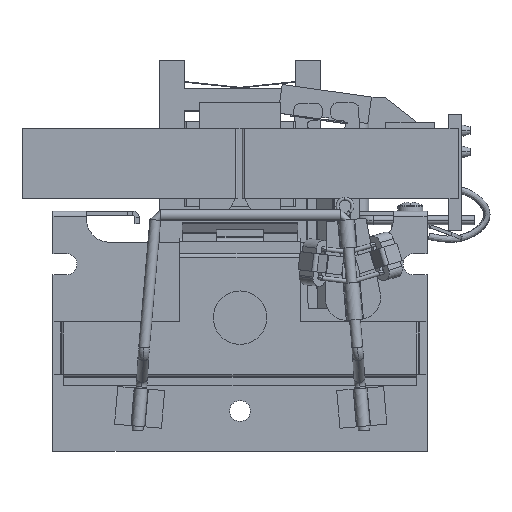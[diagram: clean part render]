
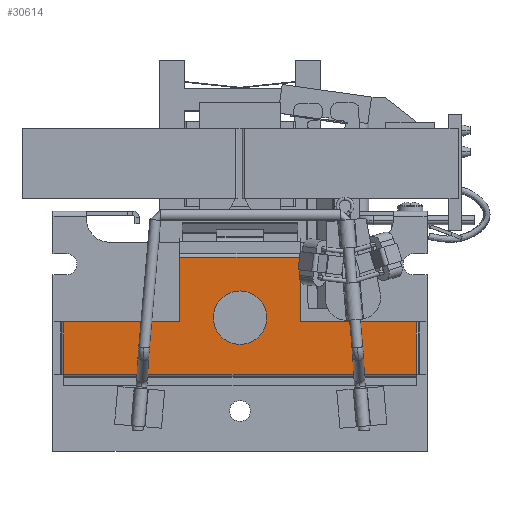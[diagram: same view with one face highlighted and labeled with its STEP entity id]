
A CAD part, top view. The second image highlights one B-rep face of the part: STEP entity #30614.
In plain terms, the highlighted planar face has unit normal (0, 0, 1).
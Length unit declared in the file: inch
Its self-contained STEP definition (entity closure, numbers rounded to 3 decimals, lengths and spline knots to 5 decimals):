
#30495 = VERTEX_POINT ( 'NONE', #35128 ) ;
#30496 = VERTEX_POINT ( 'NONE', #35181 ) ;
#30519 = EDGE_CURVE ( 'NONE', #30495, #30496, #35208, .T. ) ;
#30538 = ORIENTED_EDGE ( 'NONE', *, *, #30621, .T. ) ;
#30541 = EDGE_LOOP ( 'NONE', ( #30585, #30589 ) ) ;
#30542 = VERTEX_POINT ( 'NONE', #35298 ) ;
#30543 = VERTEX_POINT ( 'NONE', #35258 ) ;
#30545 = EDGE_CURVE ( 'NONE', #30548, #30543, #35264, .T. ) ;
#30546 = EDGE_LOOP ( 'NONE', ( #30616, #30615, #30609, #30538, #30618, #30619, #30603, #30607 ) ) ;
#30548 = VERTEX_POINT ( 'NONE', #35294 ) ;
#30552 = EDGE_CURVE ( 'NONE', #30612, #30613, #35333, .T. ) ;
#30560 = VERTEX_POINT ( 'NONE', #35321 ) ;
#30585 = ORIENTED_EDGE ( 'NONE', *, *, #30519, .F. ) ;
#30589 = ORIENTED_EDGE ( 'NONE', *, *, #30593, .F. ) ;
#30593 = EDGE_CURVE ( 'NONE', #30496, #30495, #35373, .T. ) ;
#30602 = EDGE_CURVE ( 'NONE', #30611, #30620, #35476, .T. ) ;
#30603 = ORIENTED_EDGE ( 'NONE', *, *, #30545, .T. ) ;
#30604 = EDGE_CURVE ( 'NONE', #30620, #30548, #35462, .T. ) ;
#30605 = EDGE_CURVE ( 'NONE', #30613, #30543, #35443, .T. ) ;
#30607 = ORIENTED_EDGE ( 'NONE', *, *, #30605, .F. ) ;
#30609 = ORIENTED_EDGE ( 'NONE', *, *, #30622, .T. ) ;
#30611 = VERTEX_POINT ( 'NONE', #35465 ) ;
#30612 = VERTEX_POINT ( 'NONE', #35458 ) ;
#30613 = VERTEX_POINT ( 'NONE', #35466 ) ;
#30614 = ADVANCED_FACE ( 'NONE', ( #35451, #35454 ), #35469, .T. ) ;
#30615 = ORIENTED_EDGE ( 'NONE', *, *, #30617, .T. ) ;
#30616 = ORIENTED_EDGE ( 'NONE', *, *, #30552, .F. ) ;
#30617 = EDGE_CURVE ( 'NONE', #30612, #30542, #35486, .T. ) ;
#30618 = ORIENTED_EDGE ( 'NONE', *, *, #30602, .T. ) ;
#30619 = ORIENTED_EDGE ( 'NONE', *, *, #30604, .T. ) ;
#30620 = VERTEX_POINT ( 'NONE', #35482 ) ;
#30621 = EDGE_CURVE ( 'NONE', #30560, #30611, #35464, .T. ) ;
#30622 = EDGE_CURVE ( 'NONE', #30542, #30560, #35523, .T. ) ;
#35128 = CARTESIAN_POINT ( 'NONE',  ( -0.125, 0., 0.045 ) ) ;
#35181 = CARTESIAN_POINT ( 'NONE',  ( 0.125, 0., 0.045 ) ) ;
#35208 = CIRCLE ( 'NONE', #35246, 0.125 ) ;
#35240 = DIRECTION ( 'NONE',  ( 1., 0., 0. ) ) ;
#35241 = DIRECTION ( 'NONE',  ( 0., 0., 1. ) ) ;
#35242 = CARTESIAN_POINT ( 'NONE',  ( 0., 0., 0.045 ) ) ;
#35246 = AXIS2_PLACEMENT_3D ( 'NONE', #35242, #35241, #35240 ) ;
#35258 = CARTESIAN_POINT ( 'NONE',  ( -0.825, -0.02, 0.045 ) ) ;
#35263 = CARTESIAN_POINT ( 'NONE',  ( -0.282, -0.02, 0.045 ) ) ;
#35264 = LINE ( 'NONE', #35263, #35293 ) ;
#35292 = DIRECTION ( 'NONE',  ( -1., 0., 0. ) ) ;
#35293 = VECTOR ( 'NONE', #35292, 39.37008 ) ;
#35294 = CARTESIAN_POINT ( 'NONE',  ( -0.282, -0.02, 0.045 ) ) ;
#35298 = CARTESIAN_POINT ( 'NONE',  ( 0.825, -0.02, 0.045 ) ) ;
#35321 = CARTESIAN_POINT ( 'NONE',  ( 0.282, -0.02, 0.045 ) ) ;
#35327 = DIRECTION ( 'NONE',  ( -1., 0., 0. ) ) ;
#35328 = VECTOR ( 'NONE', #35327, 39.37008 ) ;
#35332 = CARTESIAN_POINT ( 'NONE',  ( 0.282, -0.265, 0.045 ) ) ;
#35333 = LINE ( 'NONE', #35332, #35328 ) ;
#35373 = CIRCLE ( 'NONE', #35398, 0.125 ) ;
#35398 = AXIS2_PLACEMENT_3D ( 'NONE', #35448, #35439, #35438 ) ;
#35438 = DIRECTION ( 'NONE',  ( 1., 0., 0. ) ) ;
#35439 = DIRECTION ( 'NONE',  ( 0., 0., 1. ) ) ;
#35443 = LINE ( 'NONE', #35457, #35456 ) ;
#35448 = CARTESIAN_POINT ( 'NONE',  ( 0., 0., 0.045 ) ) ;
#35449 = AXIS2_PLACEMENT_3D ( 'NONE', #35490, #35489, #35488 ) ;
#35451 = FACE_OUTER_BOUND ( 'NONE', #30546, .T. ) ;
#35454 = FACE_BOUND ( 'NONE', #30541, .T. ) ;
#35455 = DIRECTION ( 'NONE',  ( 0., 1., 0. ) ) ;
#35456 = VECTOR ( 'NONE', #35455, 39.37008 ) ;
#35457 = CARTESIAN_POINT ( 'NONE',  ( -0.825, -0.265, 0.045 ) ) ;
#35458 = CARTESIAN_POINT ( 'NONE',  ( 0.825, -0.265, 0.045 ) ) ;
#35459 = DIRECTION ( 'NONE',  ( 0., -1., 0. ) ) ;
#35460 = VECTOR ( 'NONE', #35459, 39.37008 ) ;
#35461 = CARTESIAN_POINT ( 'NONE',  ( -0.282, 0.355, 0.045 ) ) ;
#35462 = LINE ( 'NONE', #35461, #35460 ) ;
#35464 = LINE ( 'NONE', #35493, #35487 ) ;
#35465 = CARTESIAN_POINT ( 'NONE',  ( 0.282, 0.283, 0.045 ) ) ;
#35466 = CARTESIAN_POINT ( 'NONE',  ( -0.825, -0.265, 0.045 ) ) ;
#35469 = PLANE ( 'NONE',  #35449 ) ;
#35475 = CARTESIAN_POINT ( 'NONE',  ( 0.282, 0.283, 0.045 ) ) ;
#35476 = LINE ( 'NONE', #35475, #35478 ) ;
#35477 = DIRECTION ( 'NONE',  ( -1., 0., 0. ) ) ;
#35478 = VECTOR ( 'NONE', #35477, 39.37008 ) ;
#35482 = CARTESIAN_POINT ( 'NONE',  ( -0.282, 0.283, 0.045 ) ) ;
#35483 = DIRECTION ( 'NONE',  ( 0., 1., 0. ) ) ;
#35484 = VECTOR ( 'NONE', #35483, 39.37008 ) ;
#35485 = CARTESIAN_POINT ( 'NONE',  ( 0.825, -0.265, 0.045 ) ) ;
#35486 = LINE ( 'NONE', #35485, #35484 ) ;
#35487 = VECTOR ( 'NONE', #35529, 39.37008 ) ;
#35488 = DIRECTION ( 'NONE',  ( 1., 0., 0. ) ) ;
#35489 = DIRECTION ( 'NONE',  ( 0., 0., 1. ) ) ;
#35490 = CARTESIAN_POINT ( 'NONE',  ( 0.282, -0.265, 0.045 ) ) ;
#35493 = CARTESIAN_POINT ( 'NONE',  ( 0.282, 0.355, 0.045 ) ) ;
#35520 = DIRECTION ( 'NONE',  ( -1., 0., 0. ) ) ;
#35521 = VECTOR ( 'NONE', #35520, 39.37008 ) ;
#35522 = CARTESIAN_POINT ( 'NONE',  ( 0.282, -0.02, 0.045 ) ) ;
#35523 = LINE ( 'NONE', #35522, #35521 ) ;
#35529 = DIRECTION ( 'NONE',  ( 0., 1., 0. ) ) ;
